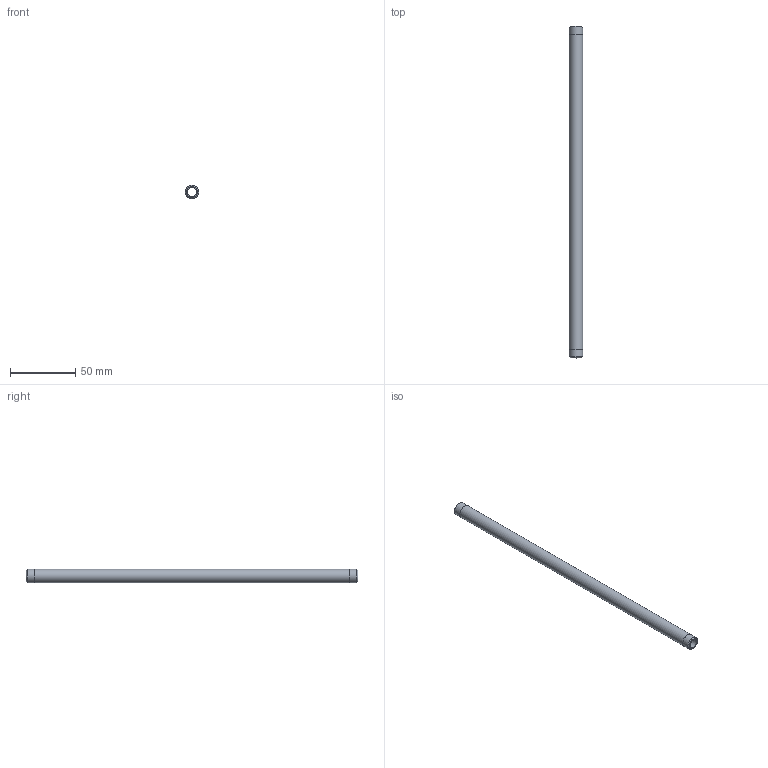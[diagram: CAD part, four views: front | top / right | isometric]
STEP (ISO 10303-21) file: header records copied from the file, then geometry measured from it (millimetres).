
FILE_DESCRIPTION(/* description */ (''),/* implementation_level */ '2;1');
FILE_NAME(/* name */ 'C:/Users/drich/Desktop/BPN18-10 v1.step',/* time_stamp */ '2020-01-03T14:49:51-06:00',/* author */ (''),/* organization */ (''),/* preprocessor_version */ 'ST-DEVELOPER v18',/* originating_system */ 'Autodesk Translation Framework v8.12.0.6',/* authorisation */ '');
FILE_SCHEMA (('AUTOMOTIVE_DESIGN { 1 0 10303 214 3 1 1 }'));
Length unit declared in the file: inch
Products named in the file (1): BPN18-10
Bounding box: 10.31 x 254 x 10.31 mm (x, y, z)
Volume: 11873.7 mm3; surface area: 13742.5 mm2
Topology: 1 solids, 1 shells, 10 faces, 24 edges, 18 vertices
Faces by surface type: cylinder 4, plane 4, cone 2
Full cylindrical faces by diameter (mm): 6.833 x1, 10.262 x2, 10.312 x1
Entity records: 360 total; most frequent: DIRECTION 64, CARTESIAN_POINT 53, ORIENTED_EDGE 48, AXIS2_PLACEMENT_3D 29, EDGE_CURVE 24, CIRCLE 18, VERTEX_POINT 18, EDGE_LOOP 14
